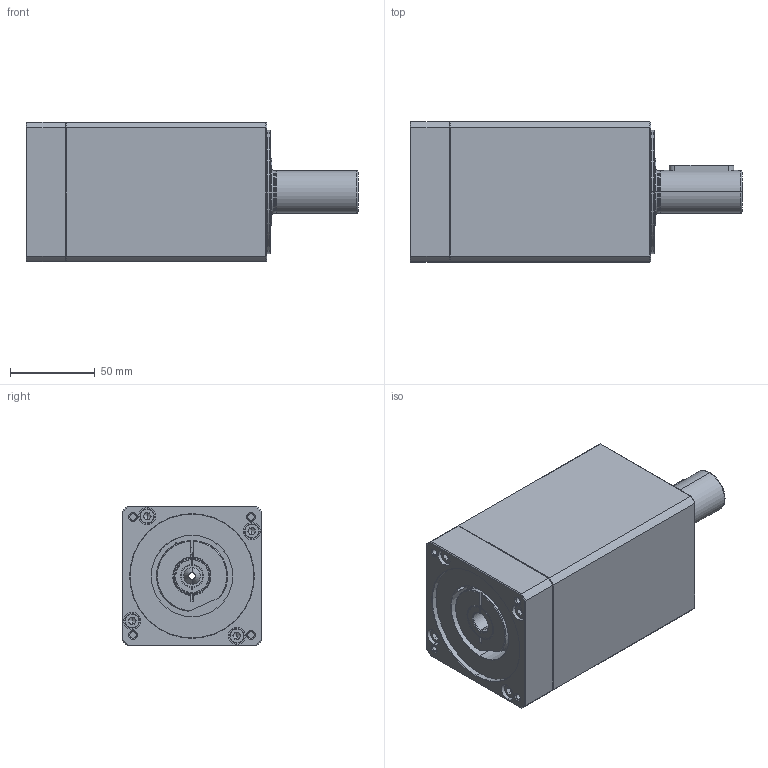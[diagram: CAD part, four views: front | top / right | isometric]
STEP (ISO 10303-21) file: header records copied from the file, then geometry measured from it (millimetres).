
FILE_DESCRIPTION (( 'STEP AP214' ), '1' );
FILE_NAME ('9003674-XXXX.STEP', '2024-08-22T14:56:39', ( '' ), ( '' ), 'SwSTEP 2.0', 'SolidWorks 2019', '' );
FILE_SCHEMA (( 'AUTOMOTIVE_DESIGN' ));
Length unit declared in the file: inch
Products named in the file (1): 9003674-XXXX
Bounding box: 195.95 x 82.55 x 82.55 mm (x, y, z)
Surface area: 79724.8 mm2 (no closed solid volume)
Topology: 0 solids, 20 shells, 318 faces, 899 edges, 584 vertices
Faces by surface type: plane 113, cylinder 85, cone 81, torus 37, bspline 2
Entity records: 15738 total; most frequent: CARTESIAN_POINT 3525, DIRECTION 1754, ORIENTED_EDGE 1489, EDGE_CURVE 891, AXIS2_PLACEMENT_3D 689, VERTEX_POINT 584, LINE 376, VECTOR 376
